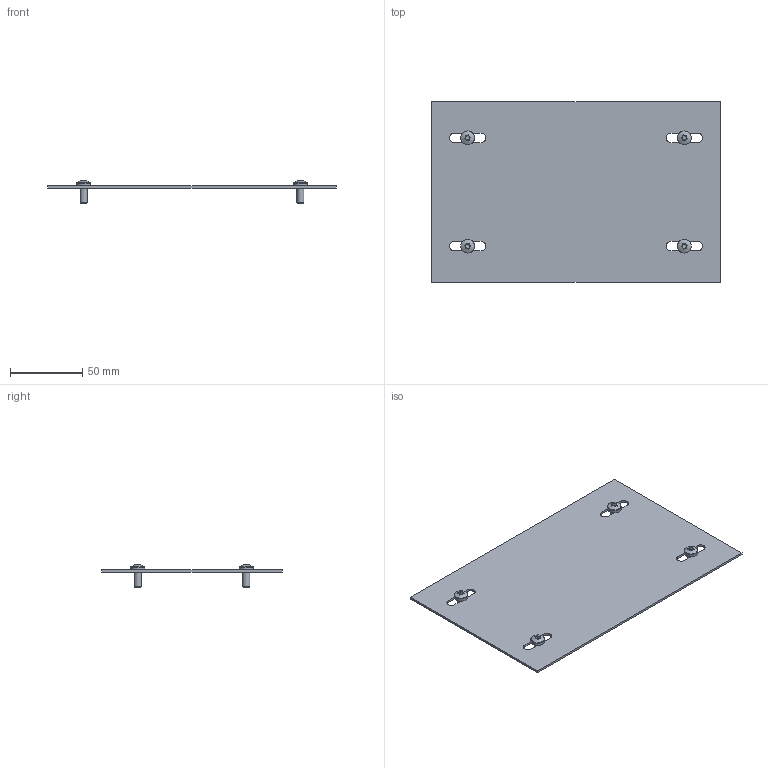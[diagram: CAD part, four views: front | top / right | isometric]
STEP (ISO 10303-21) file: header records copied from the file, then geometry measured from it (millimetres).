
FILE_DESCRIPTION(('Open CASCADE Model'),'2;1');
FILE_NAME('Open CASCADE Shape Model','2025-03-28T17:53:16',('Author'),( 'Open CASCADE'),'Open CASCADE STEP processor 7.8','Open CASCADE 7.8' ,'Unknown');
FILE_SCHEMA(('AUTOMOTIVE_DESIGN { 1 0 10303 214 1 1 1 1 }'));
Length unit declared in the file: millimetre
Products named in the file (3): Compound1; Solid1; Solid2
Assembly tree (5 placements, depth 2):
  Compound1
    Solid1
    Solid2  x4
Bounding box: 200 x 125 x 15.56 mm (x, y, z)
Volume: 38275.7 mm3; surface area: 51792.5 mm2
Topology: 5 solids, 5 shells, 86 faces, 180 edges, 108 vertices
Faces by surface type: plane 46, cylinder 16, torus 8, cone 8, sphere 4, bspline 4
Full cylindrical faces by diameter (mm): 5 x4, 9.5 x4
Entity records: 1508 total; most frequent: CARTESIAN_POINT 562, DIRECTION 190, ORIENTED_EDGE 178, EDGE_CURVE 89, AXIS2_PLACEMENT_3D 73, VERTEX_POINT 57, FACE_BOUND 48, EDGE_LOOP 48
